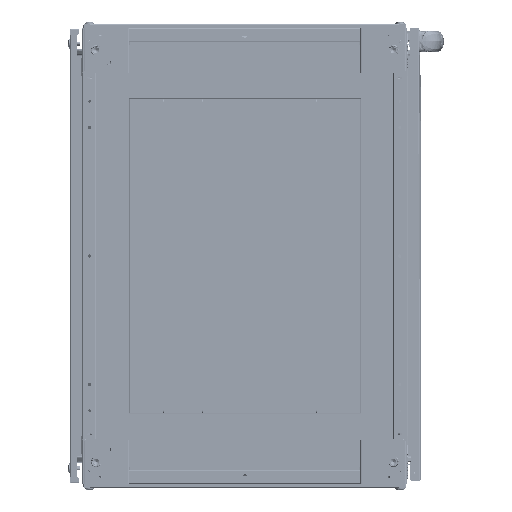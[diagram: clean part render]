
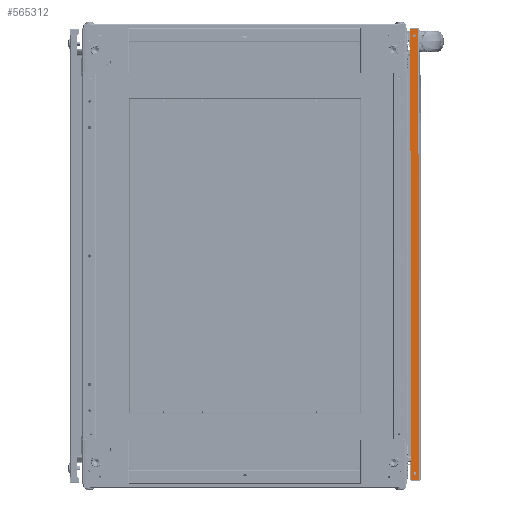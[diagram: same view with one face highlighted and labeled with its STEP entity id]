
A CAD part, front view. The second image highlights one B-rep face of the part: STEP entity #565312.
In plain terms, the highlighted planar face has unit normal (0, -1, 0) as drawn and (-1, 0, 0) by its records, which use the part's own axes.
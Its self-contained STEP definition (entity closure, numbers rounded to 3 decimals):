
#5755 = CARTESIAN_POINT ( 'NONE',  ( -2.01, 16., -788. ) ) ;
#12084 = DIRECTION ( 'NONE',  ( 0., 0., -1. ) ) ;
#45767 = VECTOR ( 'NONE', #503459, 1000. ) ;
#53046 = CARTESIAN_POINT ( 'NONE',  ( -2.01, 9., -8.7 ) ) ;
#60132 = DIRECTION ( 'NONE',  ( 0., 1., 0. ) ) ;
#71019 = VERTEX_POINT ( 'NONE', #108804 ) ;
#75871 = VECTOR ( 'NONE', #171116, 1000. ) ;
#88516 = VERTEX_POINT ( 'NONE', #311794 ) ;
#93533 = DIRECTION ( 'NONE',  ( 0., 0., -1. ) ) ;
#108652 = DIRECTION ( 'NONE',  ( 1., 0., 0. ) ) ;
#108804 = CARTESIAN_POINT ( 'NONE',  ( -2.01, 9., -774.7 ) ) ;
#111118 = VECTOR ( 'NONE', #614442, 1000. ) ;
#113039 = ORIENTED_EDGE ( 'NONE', *, *, #518733, .T. ) ;
#115750 = CARTESIAN_POINT ( 'NONE',  ( -2.01, 9., -11. ) ) ;
#118071 = DIRECTION ( 'NONE',  ( 1., 0., 0. ) ) ;
#124691 = ORIENTED_EDGE ( 'NONE', *, *, #502873, .T. ) ;
#126433 = AXIS2_PLACEMENT_3D ( 'NONE', #508277, #276665, #12084 ) ;
#128713 = FACE_BOUND ( 'NONE', #255565, .T. ) ;
#137563 = AXIS2_PLACEMENT_3D ( 'NONE', #5755, #118071, #60132 ) ;
#138361 = DIRECTION ( 'NONE',  ( 0., 0., -1. ) ) ;
#141027 = CIRCLE ( 'NONE', #592310, 2.3 ) ;
#144356 = DIRECTION ( 'NONE',  ( 1., 0., 0. ) ) ;
#153540 = CARTESIAN_POINT ( 'NONE',  ( -2.01, 2.01, 0. ) ) ;
#162003 = EDGE_LOOP ( 'NONE', ( #615180, #113039 ) ) ;
#166534 = DIRECTION ( 'NONE',  ( 0., 0., -1. ) ) ;
#171116 = DIRECTION ( 'NONE',  ( 0., 0., -1. ) ) ;
#181775 = LINE ( 'NONE', #514921, #75871 ) ;
#215753 = AXIS2_PLACEMENT_3D ( 'NONE', #115750, #108652, #166534 ) ;
#216112 = CARTESIAN_POINT ( 'NONE',  ( -2.01, 16., 0. ) ) ;
#227142 = CIRCLE ( 'NONE', #215753, 2.3 ) ;
#250628 = CARTESIAN_POINT ( 'NONE',  ( -2.01, 9., -777. ) ) ;
#255565 = EDGE_LOOP ( 'NONE', ( #601288, #584753 ) ) ;
#276665 = DIRECTION ( 'NONE',  ( 1., 0., 0. ) ) ;
#295183 = EDGE_CURVE ( 'NONE', #486683, #639803, #181775, .T. ) ;
#311794 = CARTESIAN_POINT ( 'NONE',  ( -2.01, 2.01, -788. ) ) ;
#333316 = LINE ( 'NONE', #445571, #45767 ) ;
#339301 = VERTEX_POINT ( 'NONE', #153540 ) ;
#361683 = AXIS2_PLACEMENT_3D ( 'NONE', #538947, #144356, #93533 ) ;
#379122 = LINE ( 'NONE', #216112, #567556 ) ;
#381740 = CARTESIAN_POINT ( 'NONE',  ( -2.01, 9., -779.3 ) ) ;
#384410 = CIRCLE ( 'NONE', #361683, 2.3 ) ;
#387968 = EDGE_CURVE ( 'NONE', #650775, #71019, #384410, .T. ) ;
#389678 = FACE_BOUND ( 'NONE', #162003, .T. ) ;
#404530 = ORIENTED_EDGE ( 'NONE', *, *, #666033, .T. ) ;
#445571 = CARTESIAN_POINT ( 'NONE',  ( -2.01, 2.01, -788. ) ) ;
#450357 = ORIENTED_EDGE ( 'NONE', *, *, #295183, .T. ) ;
#452398 = ORIENTED_EDGE ( 'NONE', *, *, #621449, .F. ) ;
#486683 = VERTEX_POINT ( 'NONE', #683730 ) ;
#498905 = EDGE_LOOP ( 'NONE', ( #452398, #124691, #450357, #404530 ) ) ;
#501936 = PLANE ( 'NONE',  #137563 ) ;
#502873 = EDGE_CURVE ( 'NONE', #339301, #486683, #379122, .T. ) ;
#503459 = DIRECTION ( 'NONE',  ( 0., 0., -1. ) ) ;
#505493 = FACE_OUTER_BOUND ( 'NONE', #498905, .T. ) ;
#507186 = EDGE_CURVE ( 'NONE', #71019, #650775, #141027, .T. ) ;
#508277 = CARTESIAN_POINT ( 'NONE',  ( -2.01, 9., -11. ) ) ;
#514921 = CARTESIAN_POINT ( 'NONE',  ( -2.01, 16., -788. ) ) ;
#518733 = EDGE_CURVE ( 'NONE', #541618, #690660, #519277, .T. ) ;
#519277 = CIRCLE ( 'NONE', #126433, 2.3 ) ;
#538947 = CARTESIAN_POINT ( 'NONE',  ( -2.01, 9., -777. ) ) ;
#541618 = VERTEX_POINT ( 'NONE', #53046 ) ;
#565312 = ADVANCED_FACE ( 'NONE', ( #128713, #389678, #505493 ), #501936, .F. ) ;
#567556 = VECTOR ( 'NONE', #708600, 1000. ) ;
#567960 = CARTESIAN_POINT ( 'NONE',  ( -2.01, 9., -13.3 ) ) ;
#584753 = ORIENTED_EDGE ( 'NONE', *, *, #507186, .T. ) ;
#592310 = AXIS2_PLACEMENT_3D ( 'NONE', #250628, #685184, #138361 ) ;
#601288 = ORIENTED_EDGE ( 'NONE', *, *, #387968, .T. ) ;
#603703 = LINE ( 'NONE', #607256, #111118 ) ;
#607256 = CARTESIAN_POINT ( 'NONE',  ( -2.01, 16., -788. ) ) ;
#614442 = DIRECTION ( 'NONE',  ( 0., -1., 0. ) ) ;
#615180 = ORIENTED_EDGE ( 'NONE', *, *, #698470, .T. ) ;
#621449 = EDGE_CURVE ( 'NONE', #339301, #88516, #333316, .T. ) ;
#639803 = VERTEX_POINT ( 'NONE', #716306 ) ;
#650775 = VERTEX_POINT ( 'NONE', #381740 ) ;
#666033 = EDGE_CURVE ( 'NONE', #639803, #88516, #603703, .T. ) ;
#683730 = CARTESIAN_POINT ( 'NONE',  ( -2.01, 16., 0. ) ) ;
#685184 = DIRECTION ( 'NONE',  ( 1., 0., 0. ) ) ;
#690660 = VERTEX_POINT ( 'NONE', #567960 ) ;
#698470 = EDGE_CURVE ( 'NONE', #690660, #541618, #227142, .T. ) ;
#708600 = DIRECTION ( 'NONE',  ( 0., 1., 0. ) ) ;
#716306 = CARTESIAN_POINT ( 'NONE',  ( -2.01, 16., -788. ) ) ;
